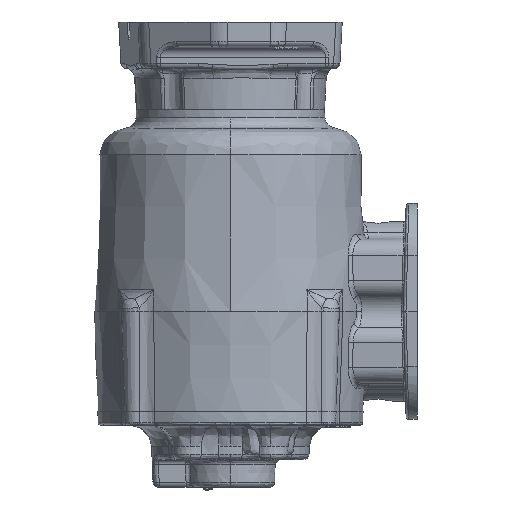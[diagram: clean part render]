
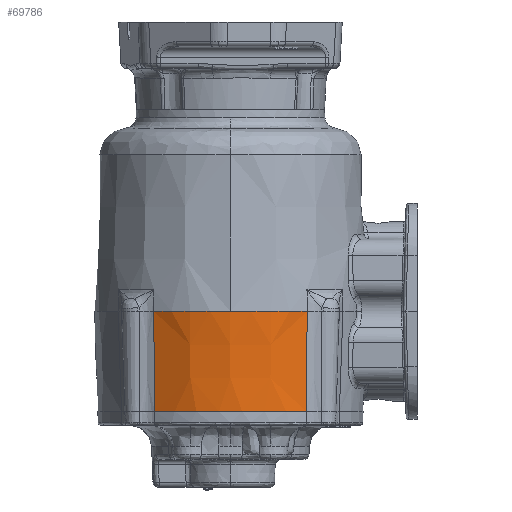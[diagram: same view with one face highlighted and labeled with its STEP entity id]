
A CAD part, left-side view. The second image highlights one B-rep face of the part: STEP entity #69786.
In plain terms, the highlighted conical face has half-angle 2 degrees and reference radius 78.232 mm.
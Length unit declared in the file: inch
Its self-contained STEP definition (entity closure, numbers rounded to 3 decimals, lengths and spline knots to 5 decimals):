
#1108 = ORIENTED_EDGE ( 'NONE', *, *, #82067, .F. ) ;
#3560 = CARTESIAN_POINT ( 'NONE',  ( -1.25, 3.3296, 0. ) ) ;
#4444 = DIRECTION ( 'NONE',  ( 0., 0., 1. ) ) ;
#5024 = AXIS2_PLACEMENT_3D ( 'NONE', #3560, #4444, #59386 ) ;
#10308 = ORIENTED_EDGE ( 'NONE', *, *, #71841, .F. ) ;
#12499 = CARTESIAN_POINT ( 'NONE',  ( -1.25, 3.3296, 0. ) ) ;
#19898 = CIRCLE ( 'NONE', #5024, 3.08 ) ;
#21471 = CARTESIAN_POINT ( 'NONE',  ( -3.79389, 1.59322, 0. ) ) ;
#27139 = CONICAL_SURFACE ( 'NONE', #106152, 3.08, 0.035 ) ;
#27412 = DIRECTION ( 'NONE',  ( 1., 0., 0. ) ) ;
#28801 = CARTESIAN_POINT ( 'NONE',  ( -3.76676, 5.05766, -0.77621 ) ) ;
#30274 = CIRCLE ( 'NONE', #144441, 3.00092 ) ;
#32602 = CARTESIAN_POINT ( 'NONE',  ( -3.71437, 1.61717, -2.2645 ) ) ;
#36733 = EDGE_CURVE ( 'NONE', #174601, #171849, #141174, .T. ) ;
#41134 = CARTESIAN_POINT ( 'NONE',  ( -3.74025, 1.60953, -1.53104 ) ) ;
#41168 = DIRECTION ( 'NONE',  ( 0., 0., -1. ) ) ;
#43955 = DIRECTION ( 'NONE',  ( 1., 0., 0. ) ) ;
#53033 = CARTESIAN_POINT ( 'NONE',  ( -3.76676, 1.60154, -0.77621 ) ) ;
#53063 = CARTESIAN_POINT ( 'NONE',  ( -1.25, 3.3296, -2.2645 ) ) ;
#57706 = CARTESIAN_POINT ( 'NONE',  ( -1.25, 3.3296, 0. ) ) ;
#59386 = DIRECTION ( 'NONE',  ( 1., 0., 0. ) ) ;
#62112 = CARTESIAN_POINT ( 'NONE',  ( -3.79389, 5.06598, 0. ) ) ;
#68338 = DIRECTION ( 'NONE',  ( 1., 0., 0. ) ) ;
#69786 = ADVANCED_FACE ( 'NONE', ( #126094 ), #27139, .T. ) ;
#70938 = CARTESIAN_POINT ( 'NONE',  ( -3.79389, 5.06598, 0. ) ) ;
#71841 = EDGE_CURVE ( 'NONE', #112294, #171849, #30274, .T. ) ;
#73272 = VERTEX_POINT ( 'NONE', #21471 ) ;
#76652 = VERTEX_POINT ( 'NONE', #100275 ) ;
#82067 = EDGE_CURVE ( 'NONE', #174601, #76652, #19898, .T. ) ;
#83265 = ORIENTED_EDGE ( 'NONE', *, *, #110649, .T. ) ;
#93356 = B_SPLINE_CURVE_WITH_KNOTS ( 'NONE', 3,
 ( #110807, #41134, #53033, #166643 ),
 .UNSPECIFIED., .F., .F.,
 ( 4, 4 ),
 ( 0., 1. ),
 .UNSPECIFIED. ) ;
#100275 = CARTESIAN_POINT ( 'NONE',  ( -4.33, 3.3296, 0. ) ) ;
#106152 = AXIS2_PLACEMENT_3D ( 'NONE', #12499, #151749, #68338 ) ;
#110649 = EDGE_CURVE ( 'NONE', #112294, #73272, #93356, .T. ) ;
#110807 = CARTESIAN_POINT ( 'NONE',  ( -3.71437, 1.61717, -2.2645 ) ) ;
#112294 = VERTEX_POINT ( 'NONE', #32602 ) ;
#122776 = ORIENTED_EDGE ( 'NONE', *, *, #154257, .F. ) ;
#126094 = FACE_OUTER_BOUND ( 'NONE', #157464, .T. ) ;
#126527 = CIRCLE ( 'NONE', #144029, 3.08 ) ;
#126836 = CARTESIAN_POINT ( 'NONE',  ( -3.71437, 5.04203, -2.2645 ) ) ;
#126992 = ORIENTED_EDGE ( 'NONE', *, *, #36733, .T. ) ;
#140586 = CARTESIAN_POINT ( 'NONE',  ( -3.74025, 5.04967, -1.53104 ) ) ;
#141174 = B_SPLINE_CURVE_WITH_KNOTS ( 'NONE', 3,
 ( #70938, #28801, #140586, #126836 ),
 .UNSPECIFIED., .F., .F.,
 ( 4, 4 ),
 ( 0., 1. ),
 .UNSPECIFIED. ) ;
#144029 = AXIS2_PLACEMENT_3D ( 'NONE', #57706, #144695, #43955 ) ;
#144441 = AXIS2_PLACEMENT_3D ( 'NONE', #53063, #41168, #27412 ) ;
#144695 = DIRECTION ( 'NONE',  ( 0., 0., 1. ) ) ;
#151749 = DIRECTION ( 'NONE',  ( 0., 0., 1. ) ) ;
#154257 = EDGE_CURVE ( 'NONE', #76652, #73272, #126527, .T. ) ;
#155395 = CARTESIAN_POINT ( 'NONE',  ( -3.71437, 5.04203, -2.2645 ) ) ;
#157464 = EDGE_LOOP ( 'NONE', ( #1108, #126992, #10308, #83265, #122776 ) ) ;
#166643 = CARTESIAN_POINT ( 'NONE',  ( -3.79389, 1.59322, 0. ) ) ;
#171849 = VERTEX_POINT ( 'NONE', #155395 ) ;
#174601 = VERTEX_POINT ( 'NONE', #62112 ) ;
